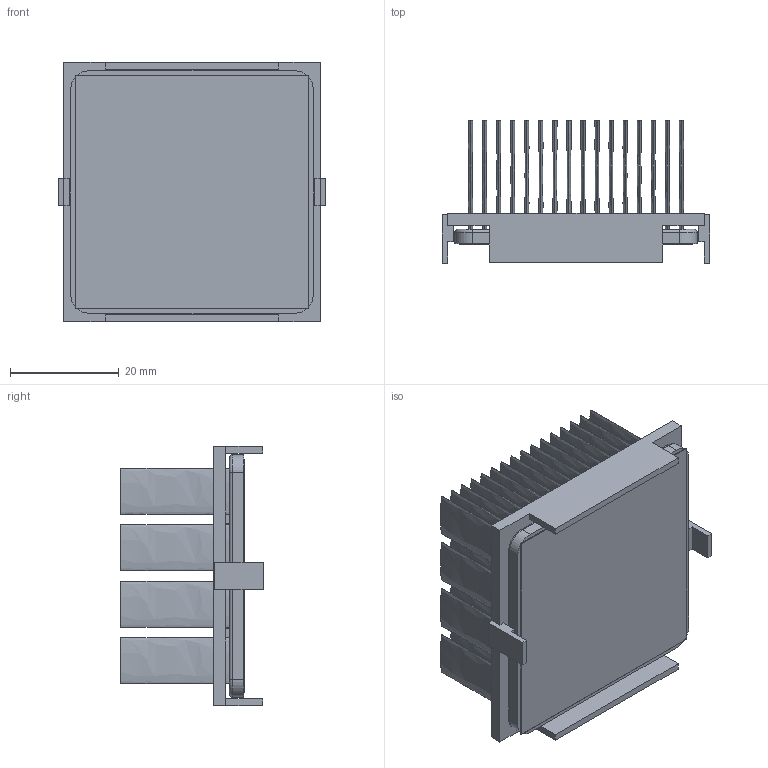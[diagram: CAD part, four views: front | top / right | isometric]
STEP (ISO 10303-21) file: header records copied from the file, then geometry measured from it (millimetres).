
FILE_DESCRIPTION (( 'STEP AP214' ), '1' );
FILE_NAME ('INM45001-23W-2.6Y.STEP', '2023-02-28T00:44:42', ( '' ), ( '' ), 'SwSTEP 2.0', 'SolidWorks 2020', '' );
FILE_SCHEMA (( 'AUTOMOTIVE_DESIGN' ));
Length unit declared in the file: inch
Products named in the file (1): INM45001-23W-2.6Y
Bounding box: 49.2 x 26.2 x 47.7 mm (x, y, z)
Volume: 14447.7 mm3; surface area: 33465.1 mm2
Topology: 3 solids, 3 shells, 274 faces, 604 edges, 400 vertices
Faces by surface type: plane 134, bspline 128, cylinder 8, torus 4
Entity records: 11396 total; most frequent: CARTESIAN_POINT 2943, ORIENTED_EDGE 1208, DIRECTION 662, EDGE_CURVE 604, VERTEX_POINT 400, EDGE_LOOP 340, LINE 328, VECTOR 328
